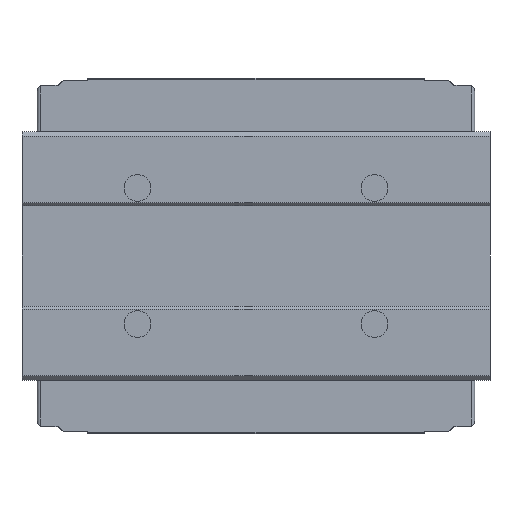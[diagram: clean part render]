
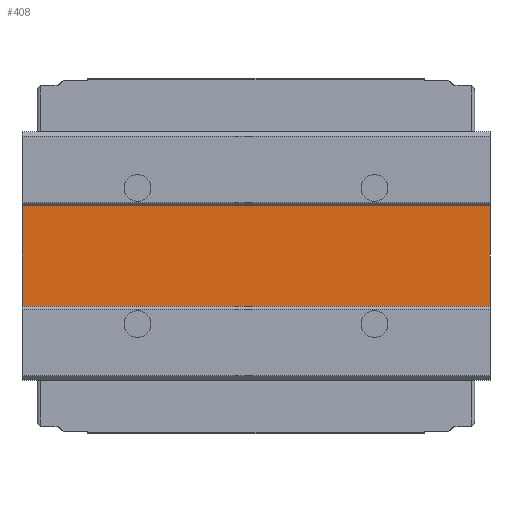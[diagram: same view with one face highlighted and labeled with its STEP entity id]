
A CAD part, front view. The second image highlights one B-rep face of the part: STEP entity #408.
In plain terms, the highlighted planar face has unit normal (0, -1, 0).
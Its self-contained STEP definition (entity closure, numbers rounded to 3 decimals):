
#408 = ADVANCED_FACE( '', ( #833 ), #834, .F. );
#833 = FACE_OUTER_BOUND( '', #1253, .T. );
#834 = PLANE( '', #1254 );
#1253 = EDGE_LOOP( '', ( #2294, #2295, #2296, #2297 ) );
#1254 = AXIS2_PLACEMENT_3D( '', #2298, #2299, #2300 );
#2294 = ORIENTED_EDGE( '', *, *, #2463, .T. );
#2295 = ORIENTED_EDGE( '', *, *, #2396, .F. );
#2296 = ORIENTED_EDGE( '', *, *, #2771, .F. );
#2297 = ORIENTED_EDGE( '', *, *, #2790, .T. );
#2298 = CARTESIAN_POINT( '', ( 39.5, 0.5, 8.5 ) );
#2299 = DIRECTION( '', ( 0., 1., 0. ) );
#2300 = DIRECTION( '', ( 0., 0., 1. ) );
#2396 = EDGE_CURVE( '', #2826, #2821, #2828, .T. );
#2463 = EDGE_CURVE( '', #2948, #2821, #2949, .T. );
#2771 = EDGE_CURVE( '', #3402, #2826, #3404, .T. );
#2790 = EDGE_CURVE( '', #3402, #2948, #3426, .T. );
#2821 = VERTEX_POINT( '', #3457 );
#2826 = VERTEX_POINT( '', #3464 );
#2828 = LINE( '', #3467, #3468 );
#2948 = VERTEX_POINT( '', #3652 );
#2949 = LINE( '', #3653, #3654 );
#3402 = VERTEX_POINT( '', #4307 );
#3404 = LINE( '', #4310, #4311 );
#3426 = LINE( '', #4340, #4341 );
#3457 = CARTESIAN_POINT( '', ( -39.5, 0.5, -8.5 ) );
#3464 = CARTESIAN_POINT( '', ( 39.5, 0.5, -8.5 ) );
#3467 = CARTESIAN_POINT( '', ( 39.5, 0.5, -8.5 ) );
#3468 = VECTOR( '', #4379, 1000. );
#3652 = CARTESIAN_POINT( '', ( -39.5, 0.5, 8.5 ) );
#3653 = CARTESIAN_POINT( '', ( -39.5, 0.5, 8.5 ) );
#3654 = VECTOR( '', #4477, 1000. );
#4307 = CARTESIAN_POINT( '', ( 39.5, 0.5, 8.5 ) );
#4310 = CARTESIAN_POINT( '', ( 39.5, 0.5, 8.5 ) );
#4311 = VECTOR( '', #4811, 1000. );
#4340 = CARTESIAN_POINT( '', ( 39.5, 0.5, 8.5 ) );
#4341 = VECTOR( '', #4828, 1000. );
#4379 = DIRECTION( '', ( -1., 0., 0. ) );
#4477 = DIRECTION( '', ( 0., 0., -1. ) );
#4811 = DIRECTION( '', ( 0., 0., -1. ) );
#4828 = DIRECTION( '', ( -1., 0., 0. ) );
